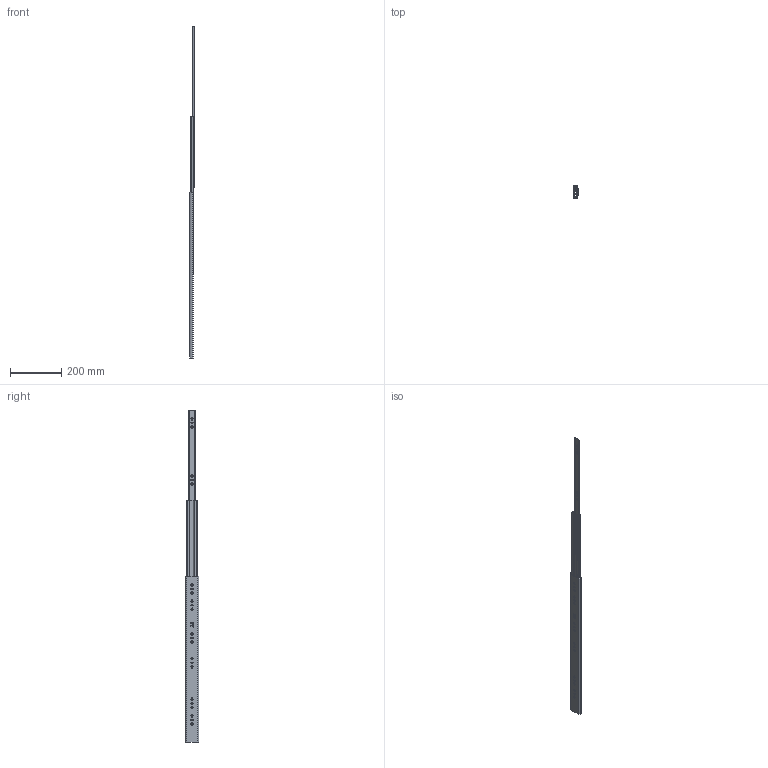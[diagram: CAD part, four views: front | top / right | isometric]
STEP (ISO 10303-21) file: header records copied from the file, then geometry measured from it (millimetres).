
FILE_DESCRIPTION (( 'STEP AP214' ), '1' );
FILE_NAME ('DSCHMD650MM-OPEN.STEP', '2018-11-29T11:30:17', ( '' ), ( '' ), 'SwSTEP 2.0', 'SolidWorks 2017', '' );
FILE_SCHEMA (( 'AUTOMOTIVE_DESIGN' ));
Length unit declared in the file: millimetre
Products named in the file (4): DSCHMD-1_650; DSCHMD-3_650; DSCHMD-2_650; DSCHMD650MM-OPEN
Assembly tree (3 placements, depth 2):
  DSCHMD650MM-OPEN
    DSCHMD-3_650
    DSCHMD-2_650
    DSCHMD-1_650
Bounding box: 18.7 x 53 x 1300 mm (x, y, z)
Volume: 216058.9 mm3; surface area: 226700.6 mm2
Topology: 3 solids, 3 shells, 1166 faces, 3282 edges, 2188 vertices
Faces by surface type: plane 611, cylinder 238, bspline 237, cone 80
Entity records: 39586 total; most frequent: CARTESIAN_POINT 10551, ORIENTED_EDGE 6564, DIRECTION 5074, EDGE_CURVE 3282, VERTEX_POINT 2188, VECTOR 2092, LINE 2092, AXIS2_PLACEMENT_3D 1491
